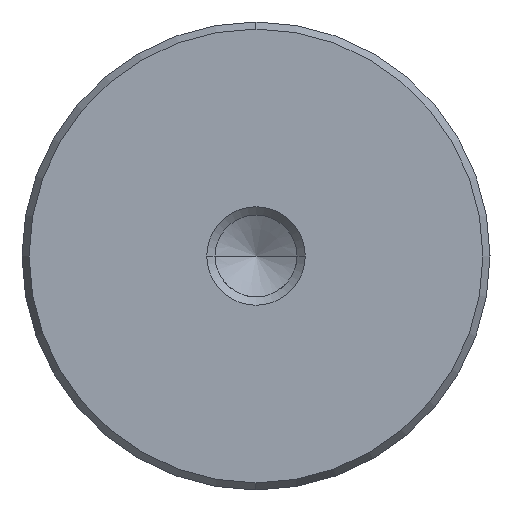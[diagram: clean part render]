
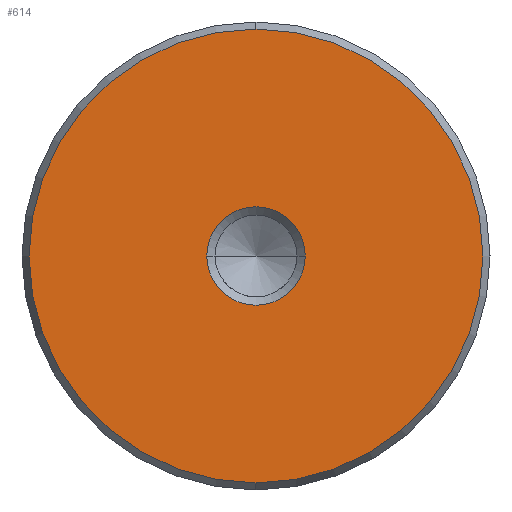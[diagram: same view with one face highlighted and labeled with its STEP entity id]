
A CAD part, left-side view. The second image highlights one B-rep face of the part: STEP entity #614.
In plain terms, the highlighted planar face has unit normal (-1, 0, 0).
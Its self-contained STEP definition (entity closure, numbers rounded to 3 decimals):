
#528=CARTESIAN_POINT('Vertex',(0.,0.,-18.423)) ;
#531=CARTESIAN_POINT('Axis2P3D Location',(0.,0.,0.)) ;
#535=CARTESIAN_POINT('Vertex',(0.,18.423,0.)) ;
#538=CARTESIAN_POINT('Axis2P3D Location',(0.,0.,0.)) ;
#542=CARTESIAN_POINT('Vertex',(0.,0.,18.423)) ;
#564=CARTESIAN_POINT('Axis2P3D Location',(0.,0.,0.)) ;
#568=CARTESIAN_POINT('Vertex',(0.,-18.423,0.)) ;
#571=CARTESIAN_POINT('Axis2P3D Location',(0.,0.,0.)) ;
#585=CARTESIAN_POINT('Axis2P3D Location',(0.,0.,0.)) ;
#596=CARTESIAN_POINT('Axis2P3D Location',(0.,0.,0.)) ;
#600=CARTESIAN_POINT('Vertex',(0.,4.,0.)) ;
#602=CARTESIAN_POINT('Vertex',(0.,-4.,0.)) ;
#605=CARTESIAN_POINT('Axis2P3D Location',(0.,0.,0.)) ;
#532=DIRECTION('Axis2P3D Direction',(1.,0.,-0.)) ;
#539=DIRECTION('Axis2P3D Direction',(1.,0.,-0.)) ;
#565=DIRECTION('Axis2P3D Direction',(1.,0.,-0.)) ;
#572=DIRECTION('Axis2P3D Direction',(1.,0.,-0.)) ;
#586=DIRECTION('Axis2P3D Direction',(1.,0.,-0.)) ;
#587=DIRECTION('Axis2P3D XDirection',(-0.,0.,-1.)) ;
#597=DIRECTION('Axis2P3D Direction',(1.,0.,-0.)) ;
#606=DIRECTION('Axis2P3D Direction',(1.,0.,-0.)) ;
#533=AXIS2_PLACEMENT_3D('Circle Axis2P3D',#531,#532,$) ;
#540=AXIS2_PLACEMENT_3D('Circle Axis2P3D',#538,#539,$) ;
#566=AXIS2_PLACEMENT_3D('Circle Axis2P3D',#564,#565,$) ;
#573=AXIS2_PLACEMENT_3D('Circle Axis2P3D',#571,#572,$) ;
#588=AXIS2_PLACEMENT_3D('Plane Axis2P3D',#585,#586,#587) ;
#598=AXIS2_PLACEMENT_3D('Circle Axis2P3D',#596,#597,$) ;
#607=AXIS2_PLACEMENT_3D('Circle Axis2P3D',#605,#606,$) ;
#591=ORIENTED_EDGE('',*,*,#537,.F.) ;
#592=ORIENTED_EDGE('',*,*,#575,.F.) ;
#593=ORIENTED_EDGE('',*,*,#570,.F.) ;
#594=ORIENTED_EDGE('',*,*,#544,.F.) ;
#611=ORIENTED_EDGE('',*,*,#604,.T.) ;
#612=ORIENTED_EDGE('',*,*,#609,.T.) ;
#613=FACE_BOUND('',#610,.T.) ;
#614=ADVANCED_FACE('720-38x160',(#595,#613),#589,.F.) ;
#534=CIRCLE('generated circle',#533,18.423) ;
#541=CIRCLE('generated circle',#540,18.423) ;
#567=CIRCLE('generated circle',#566,18.423) ;
#574=CIRCLE('generated circle',#573,18.423) ;
#599=CIRCLE('generated circle',#598,4.) ;
#608=CIRCLE('generated circle',#607,4.) ;
#537=EDGE_CURVE('',#529,#536,#534,.T.) ;
#544=EDGE_CURVE('',#536,#543,#541,.T.) ;
#570=EDGE_CURVE('',#543,#569,#567,.T.) ;
#575=EDGE_CURVE('',#569,#529,#574,.T.) ;
#604=EDGE_CURVE('',#601,#603,#599,.T.) ;
#609=EDGE_CURVE('',#603,#601,#608,.T.) ;
#590=EDGE_LOOP('',(#591,#592,#593,#594)) ;
#610=EDGE_LOOP('',(#611,#612)) ;
#595=FACE_OUTER_BOUND('',#590,.T.) ;
#589=PLANE('Plane',#588) ;
#529=VERTEX_POINT('',#528) ;
#536=VERTEX_POINT('',#535) ;
#543=VERTEX_POINT('',#542) ;
#569=VERTEX_POINT('',#568) ;
#601=VERTEX_POINT('',#600) ;
#603=VERTEX_POINT('',#602) ;
